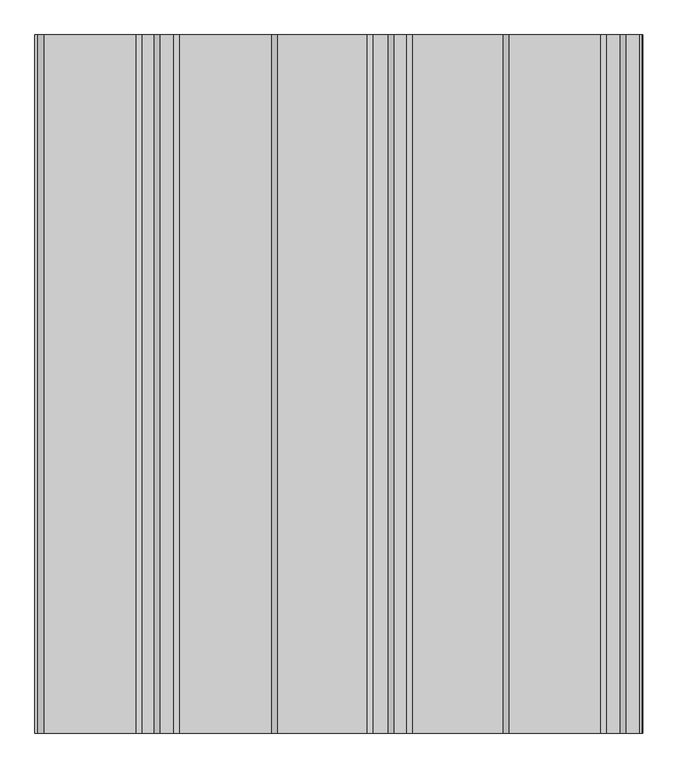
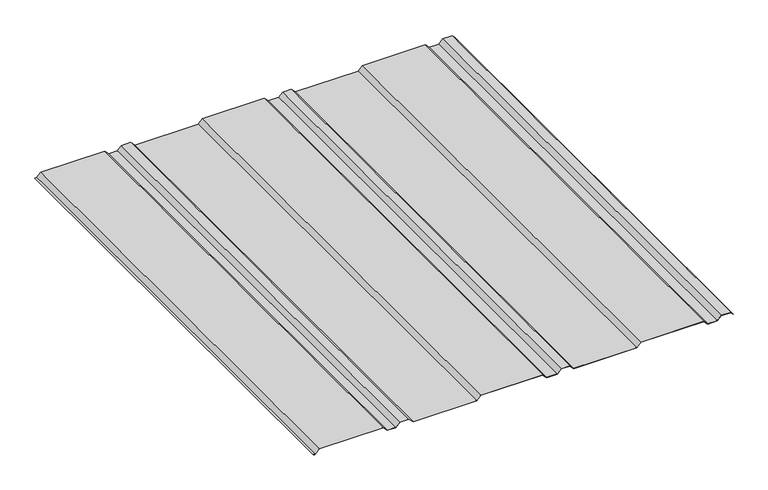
"""IFC4 building model written with IfcOpenShell, lengths in millimetres: proxy geometry, AQUAPLAST - W-Panel : RR 2H3 CIEMNY GRAFIT."""

from ifc_helpers import new_model, si_unit, frame, origin, place, context, project, spatial, polyline, outline, extrude, source, transform, mapped, element, save


def specialty_equipment_23890483(model_context):
    return source(origin(), model_context, "Body", "SweptSolid", [
        extrude(outline(polyline([(0.5, -397.8488199), (0.5, -402.1), (0.0, -402.1), (0.0, -397.6417131), (10.0, -387.6417131), (10.0, -235.9241358), (0.0, -225.9241358), (0.0, -205.9241358), (10.0, -195.9241358), (10.0, -174.2065585), (0.0, -164.2065585), (0.0, -12.520379), (10.0, -2.520379), (10.0, 144.1971983), (0.0, 154.1971983), (0.0, 179.1971983), (10.0, 189.1971983), (10.0, 208.9370534), (0.0, 218.9370534), (0.0, 368.9370534), (10.0, 378.9370534), (10.0, 529.1135982), (0.5, 538.6135982), (0.5, 560.9464217), (10.5, 570.9464217), (10.5, 593.0782125), (4.6782125, 598.9), (5.4643393, 598.6138733), (11.0, 593.0782125), (11.0, 570.9464217), (1.0, 560.9464217), (1.0, 538.820705), (10.5, 529.320705), (10.5, 378.7299466), (0.5, 368.7299466), (0.5, 219.1441602), (10.5, 209.1441602), (10.5, 188.9900915), (0.5, 178.9900915), (0.5, 154.404305), (10.5, 144.404305), (10.5, -2.7274858), (0.5, -12.7274858), (0.5, -163.9994518), (10.5, -173.9994518), (10.5, -196.1312426), (0.5, -206.1312426), (0.5, -225.717029), (10.5, -235.717029), (10.5, -387.8488199), (0.5, -397.8488199)])), frame((0.0, 50.0, 0.0), z_axis=(0.0, 1.0, 0.0), x_axis=(0.0, 0.0, 1.0)), (0.0, 0.0, 1.0), 1150.0),
    ])


if __name__ == "__main__":
    model = new_model("IFC4")
    model_context = context("Model", 3, world=origin())
    ifc_project = project(units=[si_unit("LENGTHUNIT", "METRE", prefix="MILLI")], contexts=[model_context])
    site = spatial("IfcSite", under=ifc_project)
    building = spatial("IfcBuilding", under=site)
    placement = place(None, origin())
    specialty_equipment_shape = specialty_equipment_23890483(model_context)
    element("IfcBuildingElementProxy", 1, Name="AQUAPLAST - W-Panel : RR 2H3 CIEMNY GRAFIT", ObjectType="AQUAPLAST - W-Panel : RR 2H3 CIEMNY GRAFIT", at=placement, inside=building, context=model_context, shape_type="MappedRepresentation", body=[
        mapped(specialty_equipment_shape, transform((0.0, 0.0, 0.0), x_axis=(1.0, 0.0, 0.0), y_axis=(0.0, 1.0, 0.0), z_axis=(0.0, 0.0, 1.0))),
    ])
    save(model, "model.ifc")
